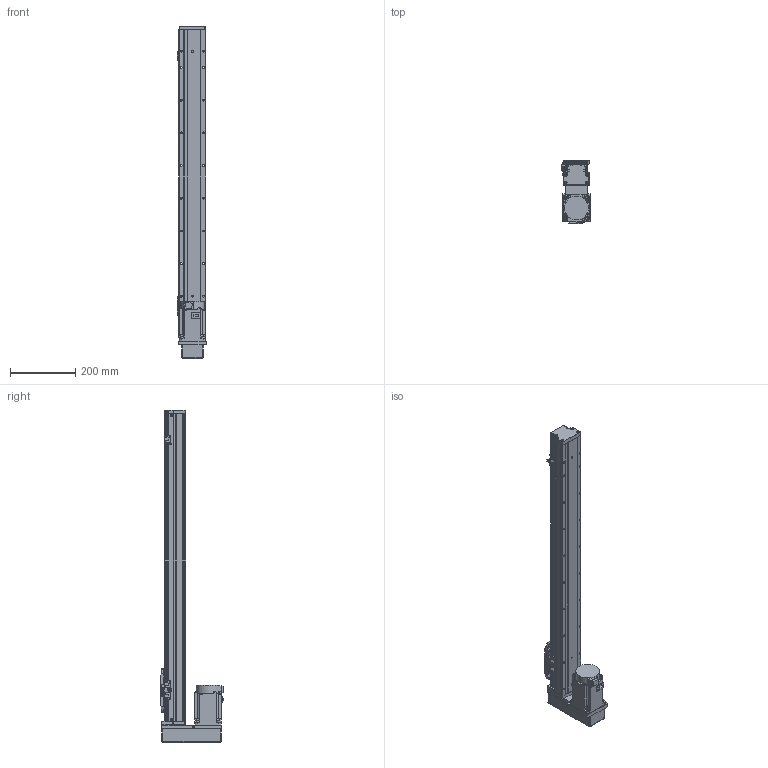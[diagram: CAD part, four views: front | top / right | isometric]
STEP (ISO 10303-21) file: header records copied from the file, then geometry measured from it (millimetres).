
FILE_DESCRIPTION (( 'STEP AP203' ), '1' );
FILE_NAME ('GTH8-750-BM-M75-C4.step', '2023-02-14T02:29:45', ( '微软用户' ), ( '微软中国' ), 'SwSTEP 2.0', 'SolidWorks 2020', '' );
FILE_SCHEMA (( 'CONFIG_CONTROL_DESIGN' ));
Length unit declared in the file: millimetre
Products named in the file (18): GTH80-003; GBT 70.1-M4×16; CTHA86-035; GTH80-004; GTH80-028; hg-kn73j_-s100; GTH80-006; GTH50-024; GTH8-750-BM-M75-C4; GTH80-013; GTH50-023; GBT 70.3-M3℅6; GBT96.1-2002 3×0.8; GTH80-022; BTH-M3X5X6; GTH80-001_750; GBT 70.1-M3℅6; CTHA86-015-3_CTHA86-015-4
Assembly tree (57 placements, depth 2):
  GTH8-750-BM-M75-C4
    GTH80-001_750
    GTH80-003
    GTH80-004
    GTH80-006
    GTH80-013
    GBT 70.3-M3℅6  x4
    GTH80-022
    GBT 70.1-M3℅6  x14
    GBT 70.1-M4×16  x8
    GTH80-028  x2
    GTH50-024  x3
    GTH50-023  x3
    GBT96.1-2002 3×0.8  x6
    BTH-M3X5X6  x8
    CTHA86-015-3_CTHA86-015-4
    CTHA86-035
    hg-kn73j_-s100
Bounding box: 89.4 x 195.3 x 1016 mm (x, y, z)
Volume: 5614771.3 mm3; surface area: 556311.3 mm2
Topology: 59 solids, 59 shells, 2203 faces, 5118 edges, 3136 vertices
Faces by surface type: plane 1153, cylinder 635, cone 243, torus 158, sphere 12, bspline 2
Entity records: 39884 total; most frequent: CARTESIAN_POINT 6695, DIRECTION 6585, ORIENTED_EDGE 6046, EDGE_CURVE 3023, AXIS2_PLACEMENT_3D 2326, LINE 1933, VECTOR 1933, VERTEX_POINT 1911
